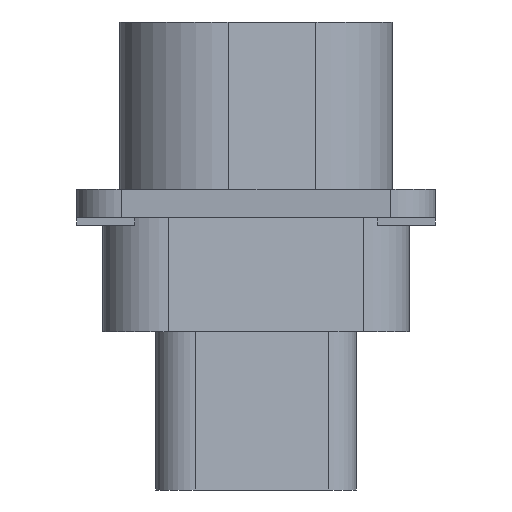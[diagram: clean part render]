
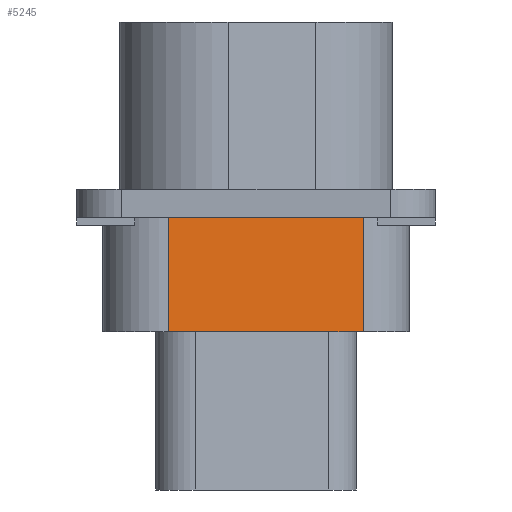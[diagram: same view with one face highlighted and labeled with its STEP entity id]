
A CAD part, left-side view. The second image highlights one B-rep face of the part: STEP entity #5245.
In plain terms, the highlighted planar face has unit normal (-0.985, -0.174, 0).
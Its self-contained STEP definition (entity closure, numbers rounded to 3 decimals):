
#203=DIRECTION('',(-0.174,0.985,0.));
#204=VECTOR('',#203,6.912);
#205=CARTESIAN_POINT('',(-27.624,-3.743,-6.833));
#206=LINE('',#205,#204);
#344=DIRECTION('',(0.,0.,-1.));
#345=VECTOR('',#344,4.001);
#346=CARTESIAN_POINT('',(-28.825,3.064,-6.833));
#347=LINE('',#346,#345);
#348=DIRECTION('',(0.,0.,-1.));
#349=VECTOR('',#348,4.001);
#350=CARTESIAN_POINT('',(-27.624,-3.743,-6.833));
#351=LINE('',#350,#349);
#382=DIRECTION('',(-0.174,0.985,0.));
#383=VECTOR('',#382,6.912);
#384=CARTESIAN_POINT('',(-27.624,-3.743,-10.833));
#385=LINE('',#384,#383);
#3902=CARTESIAN_POINT('',(-27.624,-3.743,-10.833));
#3903=VERTEX_POINT('',#3902);
#3904=CARTESIAN_POINT('',(-28.825,3.064,-10.833));
#3905=VERTEX_POINT('',#3904);
#3918=CARTESIAN_POINT('',(-27.624,-3.743,-6.833));
#3919=VERTEX_POINT('',#3918);
#3920=CARTESIAN_POINT('',(-28.825,3.064,-6.833));
#3921=VERTEX_POINT('',#3920);
#5232=CARTESIAN_POINT('',(-27.624,-3.743,-6.833));
#5233=DIRECTION('',(-0.985,-0.174,0.));
#5234=DIRECTION('',(-0.174,0.985,0.));
#5235=AXIS2_PLACEMENT_3D('',#5232,#5233,#5234);
#5236=PLANE('',#5235);
#5238=ORIENTED_EDGE('',*,*,#5237,.T.);
#5240=ORIENTED_EDGE('',*,*,#5239,.T.);
#5241=ORIENTED_EDGE('',*,*,#5223,.F.);
#5242=ORIENTED_EDGE('',*,*,#5168,.F.);
#5243=EDGE_LOOP('',(#5238,#5240,#5241,#5242));
#5244=FACE_OUTER_BOUND('',#5243,.F.);
#5245=ADVANCED_FACE('',(#5244),#5236,.T.);
#5168=EDGE_CURVE('',#3919,#3921,#206,.T.);
#5223=EDGE_CURVE('',#3921,#3905,#347,.T.);
#5237=EDGE_CURVE('',#3919,#3903,#351,.T.);
#5239=EDGE_CURVE('',#3903,#3905,#385,.T.);
